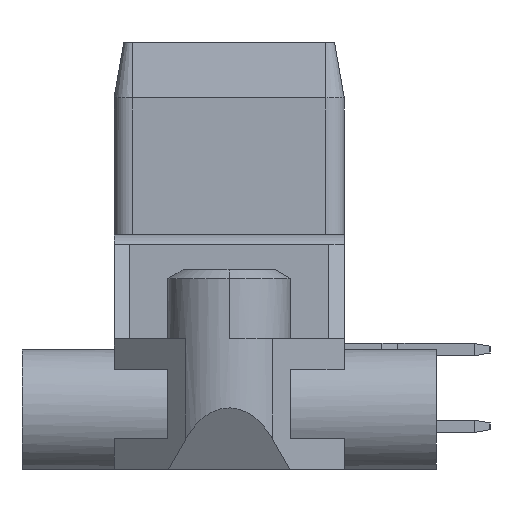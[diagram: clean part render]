
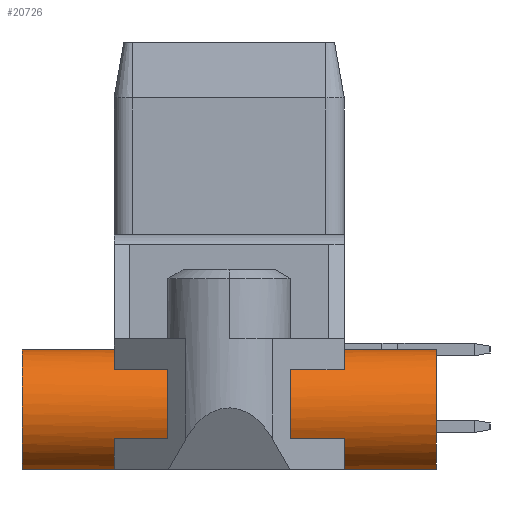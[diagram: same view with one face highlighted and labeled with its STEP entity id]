
A CAD part, left-side view. The second image highlights one B-rep face of the part: STEP entity #20726.
In plain terms, the highlighted cylindrical face has radius 4 mm (diameter 8 mm), a partial arc.
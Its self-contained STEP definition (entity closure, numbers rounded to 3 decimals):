
#4539=CARTESIAN_POINT('',(-39.,7.5,-24.));
#4540=DIRECTION('',(0.,1.,0.));
#4541=DIRECTION('',(-0.312,0.,-0.95));
#4542=AXIS2_PLACEMENT_3D('',#4539,#4540,#4541);
#4573=CARTESIAN_POINT('',(-39.,7.5,-24.));
#4574=DIRECTION('',(0.,1.,0.));
#4575=DIRECTION('',(-0.738,0.,0.675));
#4576=AXIS2_PLACEMENT_3D('',#4573,#4574,#4575);
#4641=CARTESIAN_POINT('',(-39.,-7.5,-24.));
#4642=DIRECTION('',(0.,1.,0.));
#4643=DIRECTION('',(-0.312,0.,-0.95));
#4644=AXIS2_PLACEMENT_3D('',#4641,#4642,#4643);
#4700=CARTESIAN_POINT('',(-39.,-7.5,-24.));
#4701=DIRECTION('',(0.,1.,0.));
#4702=DIRECTION('',(-0.738,0.,0.675));
#4703=AXIS2_PLACEMENT_3D('',#4700,#4701,#4702);
#4743=DIRECTION('',(0.,-1.,0.));
#4744=VECTOR('',#4743,5.);
#4745=CARTESIAN_POINT('',(-42.572,7.5,-25.8));
#4746=LINE('',#4745,#4744);
#4790=CARTESIAN_POINT('',(-39.,2.5,-24.));
#4791=DIRECTION('',(0.,1.,0.));
#4792=DIRECTION('',(-0.893,0.,-0.45));
#4793=AXIS2_PLACEMENT_3D('',#4790,#4791,#4792);
#4804=DIRECTION('',(0.,1.,0.));
#4805=VECTOR('',#4804,5.);
#4806=CARTESIAN_POINT('',(-42.572,-7.5,-25.8));
#4807=LINE('',#4806,#4805);
#4808=DIRECTION('',(0.,1.,0.));
#4809=VECTOR('',#4808,15.);
#4810=CARTESIAN_POINT('',(-35.536,-7.5,-26.));
#4811=LINE('',#4810,#4809);
#4812=DIRECTION('',(0.,-1.,0.));
#4813=VECTOR('',#4812,5.);
#4814=CARTESIAN_POINT('',(-41.951,7.5,-21.3));
#4815=LINE('',#4814,#4813);
#4816=DIRECTION('',(0.,1.,0.));
#4817=VECTOR('',#4816,6.);
#4818=CARTESIAN_POINT('',(-40.249,7.5,-27.8));
#4819=LINE('',#4818,#4817);
#4820=DIRECTION('',(0.,-1.,0.));
#4821=VECTOR('',#4820,27.);
#4822=CARTESIAN_POINT('',(-37.751,13.5,-27.8));
#4823=LINE('',#4822,#4821);
#4824=DIRECTION('',(0.,-1.,0.));
#4825=VECTOR('',#4824,6.);
#4826=CARTESIAN_POINT('',(-40.249,-7.5,-27.8));
#4827=LINE('',#4826,#4825);
#4836=CARTESIAN_POINT('',(-39.,-2.5,-24.));
#4837=DIRECTION('',(0.,-1.,0.));
#4838=DIRECTION('',(-0.738,0.,0.675));
#4839=AXIS2_PLACEMENT_3D('',#4836,#4837,#4838);
#4917=DIRECTION('',(0.,1.,0.));
#4918=VECTOR('',#4917,5.);
#4919=CARTESIAN_POINT('',(-41.951,-7.5,-21.3));
#4920=LINE('',#4919,#4918);
#5237=CARTESIAN_POINT('',(-39.,13.5,-24.));
#5238=DIRECTION('',(0.,1.,0.));
#5239=DIRECTION('',(-0.312,0.,-0.95));
#5240=AXIS2_PLACEMENT_3D('',#5237,#5238,#5239);
#5347=CARTESIAN_POINT('',(-39.,-13.5,-24.));
#5348=DIRECTION('',(0.,1.,0.));
#5349=DIRECTION('',(-0.312,0.,-0.95));
#5350=AXIS2_PLACEMENT_3D('',#5347,#5348,#5349);
#10472=CARTESIAN_POINT('',(-37.751,13.5,-27.8));
#10473=CARTESIAN_POINT('',(-40.249,13.5,-27.8));
#10474=VERTEX_POINT('',#10472);
#10475=VERTEX_POINT('',#10473);
#10476=CARTESIAN_POINT('',(-35.536,7.5,-26.));
#10477=VERTEX_POINT('',#10476);
#10478=CARTESIAN_POINT('',(-40.249,7.5,-27.8));
#10479=VERTEX_POINT('',#10478);
#10484=CARTESIAN_POINT('',(-37.751,-13.5,-27.8));
#10485=CARTESIAN_POINT('',(-40.249,-13.5,-27.8));
#10486=VERTEX_POINT('',#10484);
#10487=VERTEX_POINT('',#10485);
#10490=CARTESIAN_POINT('',(-35.536,-7.5,-26.));
#10491=VERTEX_POINT('',#10490);
#10494=CARTESIAN_POINT('',(-40.249,-7.5,-27.8));
#10495=VERTEX_POINT('',#10494);
#13037=CARTESIAN_POINT('',(-42.572,7.5,-25.8));
#13038=VERTEX_POINT('',#13037);
#13039=CARTESIAN_POINT('',(-41.951,7.5,-21.3));
#13040=VERTEX_POINT('',#13039);
#13089=CARTESIAN_POINT('',(-42.572,2.5,-25.8));
#13090=VERTEX_POINT('',#13089);
#13091=CARTESIAN_POINT('',(-41.951,2.5,-21.3));
#13092=VERTEX_POINT('',#13091);
#13121=CARTESIAN_POINT('',(-42.572,-7.5,-25.8));
#13122=VERTEX_POINT('',#13121);
#13123=CARTESIAN_POINT('',(-41.951,-7.5,-21.3));
#13124=VERTEX_POINT('',#13123);
#13129=CARTESIAN_POINT('',(-41.951,-2.5,-21.3));
#13130=VERTEX_POINT('',#13129);
#13131=CARTESIAN_POINT('',(-42.572,-2.5,-25.8));
#13132=VERTEX_POINT('',#13131);
#20694=CARTESIAN_POINT('',(-39.,-7.5,-24.));
#20695=DIRECTION('',(0.,1.,0.));
#20696=DIRECTION('',(1.,0.,0.));
#20697=AXIS2_PLACEMENT_3D('',#20694,#20695,#20696);
#20698=CYLINDRICAL_SURFACE('',#20697,4.);
#20699=ORIENTED_EDGE('',*,*,#20537,.T.);
#20700=ORIENTED_EDGE('',*,*,#20653,.T.);
#20702=ORIENTED_EDGE('',*,*,#20701,.F.);
#20704=ORIENTED_EDGE('',*,*,#20703,.F.);
#20705=ORIENTED_EDGE('',*,*,#20576,.T.);
#20707=ORIENTED_EDGE('',*,*,#20706,.T.);
#20708=ORIENTED_EDGE('',*,*,#20448,.F.);
#20710=ORIENTED_EDGE('',*,*,#20709,.T.);
#20711=ORIENTED_EDGE('',*,*,#20670,.F.);
#20712=ORIENTED_EDGE('',*,*,#20615,.F.);
#20713=ORIENTED_EDGE('',*,*,#20421,.F.);
#20715=ORIENTED_EDGE('',*,*,#20714,.T.);
#20717=ORIENTED_EDGE('',*,*,#20716,.T.);
#20719=ORIENTED_EDGE('',*,*,#20718,.T.);
#20721=ORIENTED_EDGE('',*,*,#20720,.F.);
#20723=ORIENTED_EDGE('',*,*,#20722,.F.);
#20724=EDGE_LOOP('',(#20699,#20700,#20702,#20704,#20705,#20707,#20708,#20710,
#20711,#20712,#20713,#20715,#20717,#20719,#20721,#20723));
#20725=FACE_OUTER_BOUND('',#20724,.F.);
#20726=ADVANCED_FACE('',(#20725),#20698,.T.);
#4543=CIRCLE('',#4542,4.);
#4577=CIRCLE('',#4576,4.);
#4645=CIRCLE('',#4644,4.);
#4704=CIRCLE('',#4703,4.);
#4794=CIRCLE('',#4793,4.);
#4840=CIRCLE('',#4839,4.);
#5241=CIRCLE('',#5240,4.);
#5351=CIRCLE('',#5350,4.);
#20421=EDGE_CURVE('',#10479,#13038,#4543,.T.);
#20448=EDGE_CURVE('',#13040,#10477,#4577,.T.);
#20537=EDGE_CURVE('',#10495,#13122,#4645,.T.);
#20576=EDGE_CURVE('',#13124,#10491,#4704,.T.);
#20615=EDGE_CURVE('',#13038,#13090,#4746,.T.);
#20653=EDGE_CURVE('',#13122,#13132,#4807,.T.);
#20670=EDGE_CURVE('',#13090,#13092,#4794,.T.);
#20701=EDGE_CURVE('',#13130,#13132,#4840,.T.);
#20703=EDGE_CURVE('',#13124,#13130,#4920,.T.);
#20706=EDGE_CURVE('',#10491,#10477,#4811,.T.);
#20709=EDGE_CURVE('',#13040,#13092,#4815,.T.);
#20714=EDGE_CURVE('',#10479,#10475,#4819,.T.);
#20716=EDGE_CURVE('',#10475,#10474,#5241,.T.);
#20718=EDGE_CURVE('',#10474,#10486,#4823,.T.);
#20720=EDGE_CURVE('',#10487,#10486,#5351,.T.);
#20722=EDGE_CURVE('',#10495,#10487,#4827,.T.);
